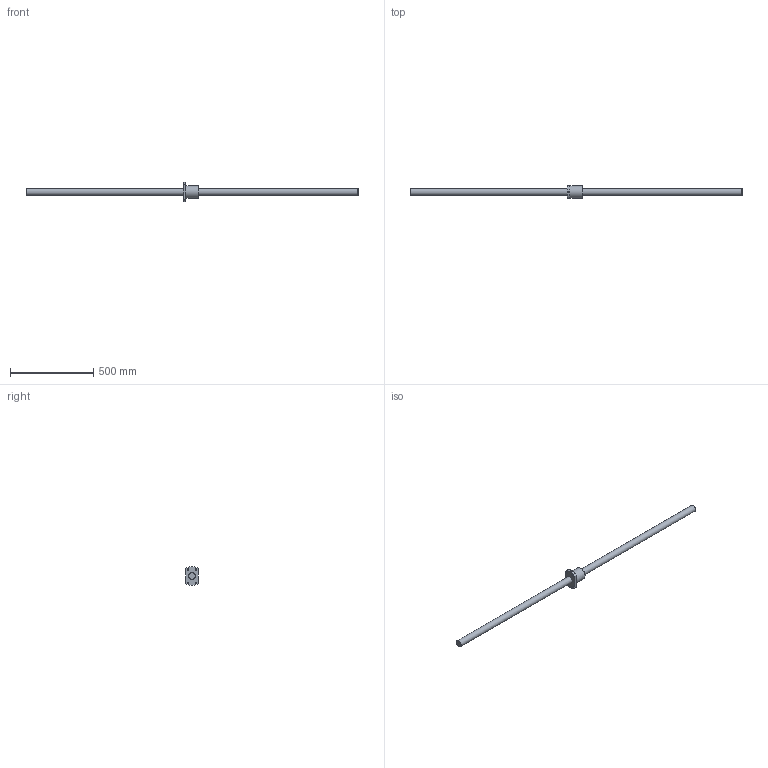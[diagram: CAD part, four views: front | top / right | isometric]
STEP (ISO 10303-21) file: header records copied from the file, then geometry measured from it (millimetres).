
FILE_DESCRIPTION((''),'2;1');
FILE_NAME('D:\製品 (図面)\カタログ用3D\ネジ関連\STEP形式\RBSMA\RBSMA4010-2000.stp','2010-06-02T14:45:52',('Tsuchiya'),(''),'Autodesk Inventor 10','Autodesk Inventor 10','');
FILE_SCHEMA(('AUTOMOTIVE_DESIGN { 1 0 10303 214 1 1 1 1 }'));
Length unit declared in the file: millimetre
Products named in the file (3): RBSMA4010-2000; RBSMA4010-20001; RBSMA4010-20002
Assembly tree (2 placements, depth 2):
  RBSMA4010-2000
    RBSMA4010-20001
    RBSMA4010-20002
Bounding box: 2000 x 76 x 115.82 mm (x, y, z)
Volume: 2872123 mm3; surface area: 305051.7 mm2
Topology: 2 solids, 2 shells, 25 faces, 63 edges, 42 vertices
Faces by surface type: cylinder 9, plane 8, cone 7, bspline 1
Full cylindrical faces by diameter (mm): 11 x4, 40 x2, 76 x1
Entity records: 885 total; most frequent: CARTESIAN_POINT 270, DIRECTION 120, ORIENTED_EDGE 94, AXIS2_PLACEMENT_3D 55, EDGE_LOOP 48, EDGE_CURVE 47, VERTEX_POINT 37, CIRCLE 26
